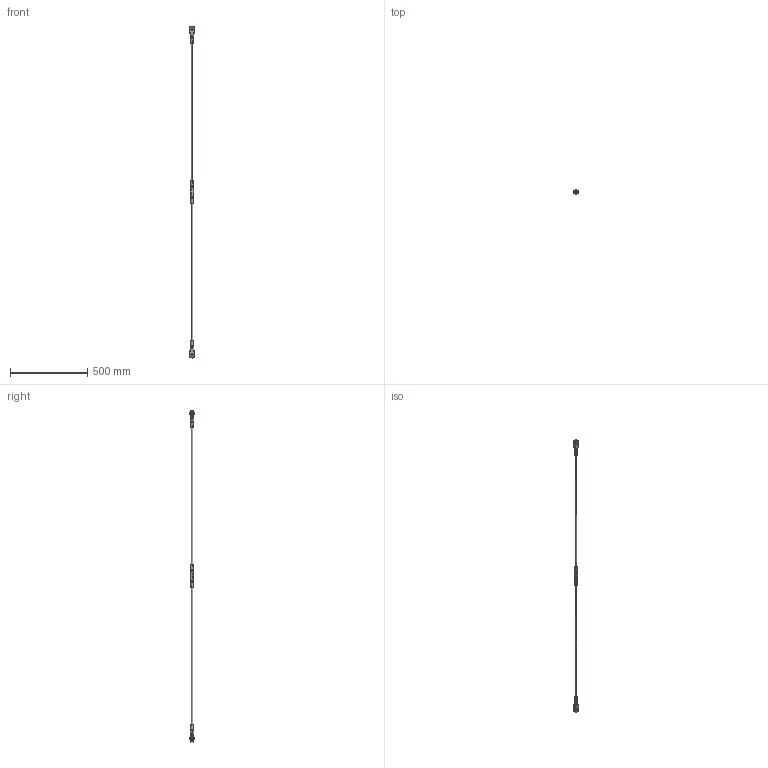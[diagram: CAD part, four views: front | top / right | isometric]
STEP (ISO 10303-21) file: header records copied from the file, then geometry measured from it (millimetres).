
FILE_DESCRIPTION (( 'STEP AP203' ), '1' );
FILE_NAME ('M12 G+AB+K.STEP', '2018-02-14T14:15:31', ( 'install' ), ( 'Hewlett-Packard Company' ), 'SwSTEP 2.0', 'SolidWorks 2017', '' );
FILE_SCHEMA (( 'CONFIG_CONTROL_DESIGN' ));
Length unit declared in the file: millimetre
Products named in the file (6): Bolzen SicherungsringVarB_generisch_M12; M12 G+AB+K; Gabelkopf Kunde_M12; Abdeckhülse_generisch_M12; Kreuzmuffe_M12; Zugstab_M12
Assembly tree (11 placements, depth 2):
  M12 G+AB+K
    Gabelkopf Kunde_M12  x2
    Abdeckhülse_generisch_M12  x4
    Kreuzmuffe_M12
    Zugstab_M12  x2
    Bolzen SicherungsringVarB_generisch_M12  x2
Bounding box: 34.98 x 31.6 x 2155 mm (x, y, z)
Volume: 306832.8 mm3; surface area: 122327.3 mm2
Topology: 11 solids, 11 shells, 334 faces, 827 edges, 505 vertices
Faces by surface type: cylinder 168, plane 70, cone 54, torus 26, bspline 16
Entity records: 9493 total; most frequent: CARTESIAN_POINT 4853, ORIENTED_EDGE 844, DIRECTION 786, EDGE_CURVE 422, AXIS2_PLACEMENT_3D 327, VERTEX_POINT 257, EDGE_LOOP 191, FACE_OUTER_BOUND 170
